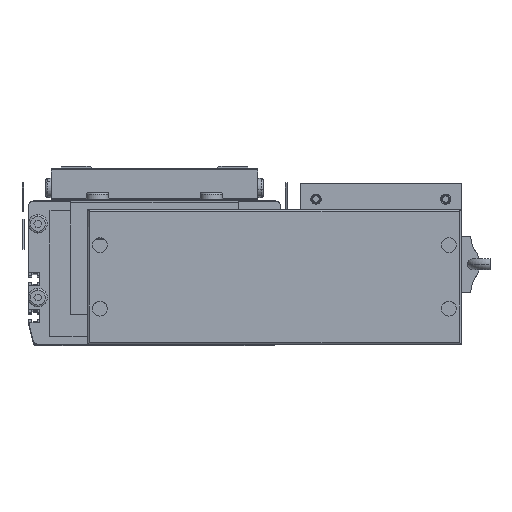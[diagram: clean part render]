
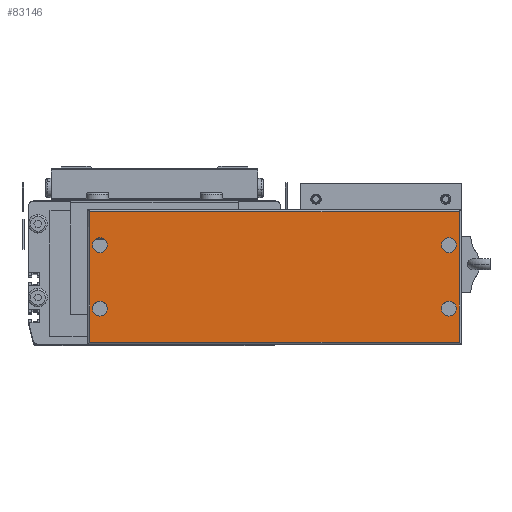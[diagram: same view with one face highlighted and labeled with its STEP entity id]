
A CAD part, top view. The second image highlights one B-rep face of the part: STEP entity #83146.
In plain terms, the highlighted planar face has unit normal (0, 0, 1).
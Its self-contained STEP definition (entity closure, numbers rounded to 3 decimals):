
#32617 = CIRCLE ( 'NONE', #32640, 4. ) ;
#32639 = CARTESIAN_POINT ( 'NONE',  ( -29.25, 53., 44. ) ) ;
#32640 = AXIS2_PLACEMENT_3D ( 'NONE', #32639, #32701, #32700 ) ;
#32700 = DIRECTION ( 'NONE',  ( 1., 0., 0. ) ) ;
#32701 = DIRECTION ( 'NONE',  ( 0., 0., 1. ) ) ;
#32872 = CARTESIAN_POINT ( 'NONE',  ( -25.25, 53., 44. ) ) ;
#32947 = CIRCLE ( 'NONE', #33009, 4. ) ;
#32955 = CARTESIAN_POINT ( 'NONE',  ( -25.25, 19., 44. ) ) ;
#33005 = CARTESIAN_POINT ( 'NONE',  ( 161.75, 19., 44. ) ) ;
#33007 = DIRECTION ( 'NONE',  ( 1., 0., 0. ) ) ;
#33008 = DIRECTION ( 'NONE',  ( 0., 0., 1. ) ) ;
#33009 = AXIS2_PLACEMENT_3D ( 'NONE', #33012, #33008, #33007 ) ;
#33012 = CARTESIAN_POINT ( 'NONE',  ( 157.75, 19., 44. ) ) ;
#33013 = CARTESIAN_POINT ( 'NONE',  ( 153.75, 19., 44. ) ) ;
#33020 = CARTESIAN_POINT ( 'NONE',  ( 161.75, 53., 44. ) ) ;
#33021 = CIRCLE ( 'NONE', #33114, 4. ) ;
#33024 = CARTESIAN_POINT ( 'NONE',  ( 153.75, 53., 44. ) ) ;
#33079 = CARTESIAN_POINT ( 'NONE',  ( -33.25, 19., 44. ) ) ;
#33104 = DIRECTION ( 'NONE',  ( 1., 0., 0. ) ) ;
#33105 = DIRECTION ( 'NONE',  ( 0., 0., 1. ) ) ;
#33114 = AXIS2_PLACEMENT_3D ( 'NONE', #33225, #33224, #33223 ) ;
#33131 = AXIS2_PLACEMENT_3D ( 'NONE', #33144, #33105, #33104 ) ;
#33144 = CARTESIAN_POINT ( 'NONE',  ( -29.25, 19., 44. ) ) ;
#33145 = CARTESIAN_POINT ( 'NONE',  ( -33.25, 53., 44. ) ) ;
#33155 = CIRCLE ( 'NONE', #33131, 4. ) ;
#33223 = DIRECTION ( 'NONE',  ( 1., 0., 0. ) ) ;
#33224 = DIRECTION ( 'NONE',  ( 0., 0., 1. ) ) ;
#33225 = CARTESIAN_POINT ( 'NONE',  ( 157.75, 53., 44. ) ) ;
#34486 = FACE_BOUND ( 'NONE', #83145, .T. ) ;
#34496 = CARTESIAN_POINT ( 'NONE',  ( -35.75, 0., 44. ) ) ;
#34498 = PLANE ( 'NONE',  #34638 ) ;
#34499 = FACE_OUTER_BOUND ( 'NONE', #83222, .T. ) ;
#34508 = FACE_BOUND ( 'NONE', #83217, .T. ) ;
#34527 = DIRECTION ( 'NONE',  ( 0., 1., 0. ) ) ;
#34528 = VECTOR ( 'NONE', #34527, 1000. ) ;
#34532 = LINE ( 'NONE', #34667, #34528 ) ;
#34550 = CARTESIAN_POINT ( 'NONE',  ( -34.75, 0., 44. ) ) ;
#34551 = LINE ( 'NONE', #34550, #34619 ) ;
#34558 = FACE_BOUND ( 'NONE', #83149, .T. ) ;
#34597 = CARTESIAN_POINT ( 'NONE',  ( 163.25, 71., 44. ) ) ;
#34601 = CARTESIAN_POINT ( 'NONE',  ( -34.75, 71., 44. ) ) ;
#34618 = DIRECTION ( 'NONE',  ( 0., -1., 0. ) ) ;
#34619 = VECTOR ( 'NONE', #34618, 1000. ) ;
#34623 = DIRECTION ( 'NONE',  ( 1., 0., 0. ) ) ;
#34624 = DIRECTION ( 'NONE',  ( 0., 0., 1. ) ) ;
#34625 = CARTESIAN_POINT ( 'NONE',  ( 157.75, 19., 44. ) ) ;
#34626 = AXIS2_PLACEMENT_3D ( 'NONE', #34625, #34624, #34623 ) ;
#34628 = DIRECTION ( 'NONE',  ( 1., 0., 0. ) ) ;
#34629 = DIRECTION ( 'NONE',  ( 0., 0., 1. ) ) ;
#34630 = CIRCLE ( 'NONE', #34626, 4. ) ;
#34637 = FACE_BOUND ( 'NONE', #83215, .T. ) ;
#34638 = AXIS2_PLACEMENT_3D ( 'NONE', #34496, #34629, #34628 ) ;
#34650 = DIRECTION ( 'NONE',  ( 0., 0., 1. ) ) ;
#34651 = CIRCLE ( 'NONE', #34670, 4. ) ;
#34667 = CARTESIAN_POINT ( 'NONE',  ( 163.25, 72., 44. ) ) ;
#34669 = DIRECTION ( 'NONE',  ( 1., 0., 0. ) ) ;
#34670 = AXIS2_PLACEMENT_3D ( 'NONE', #34673, #34650, #34669 ) ;
#34673 = CARTESIAN_POINT ( 'NONE',  ( -29.25, 53., 44. ) ) ;
#34694 = CARTESIAN_POINT ( 'NONE',  ( -34.75, 1., 44. ) ) ;
#34707 = CIRCLE ( 'NONE', #34891, 4. ) ;
#34724 = DIRECTION ( 'NONE',  ( 1., 0., 0. ) ) ;
#34725 = DIRECTION ( 'NONE',  ( 0., 0., 1. ) ) ;
#34760 = CIRCLE ( 'NONE', #34911, 4. ) ;
#34770 = LINE ( 'NONE', #34838, #34897 ) ;
#34772 = CARTESIAN_POINT ( 'NONE',  ( 163.25, 1., 44. ) ) ;
#34799 = DIRECTION ( 'NONE',  ( -1., 0., 0. ) ) ;
#34800 = VECTOR ( 'NONE', #34799, 1000. ) ;
#34801 = CARTESIAN_POINT ( 'NONE',  ( -35.75, 71., 44. ) ) ;
#34808 = DIRECTION ( 'NONE',  ( 1., 0., 0. ) ) ;
#34809 = DIRECTION ( 'NONE',  ( 0., 0., 1. ) ) ;
#34810 = CARTESIAN_POINT ( 'NONE',  ( -29.25, 19., 44. ) ) ;
#34812 = LINE ( 'NONE', #34801, #34800 ) ;
#34838 = CARTESIAN_POINT ( 'NONE',  ( 164.25, 1., 44. ) ) ;
#34888 = CARTESIAN_POINT ( 'NONE',  ( 157.75, 53., 44. ) ) ;
#34891 = AXIS2_PLACEMENT_3D ( 'NONE', #34810, #34809, #34808 ) ;
#34896 = DIRECTION ( 'NONE',  ( 1., 0., 0. ) ) ;
#34897 = VECTOR ( 'NONE', #34896, 1000. ) ;
#34911 = AXIS2_PLACEMENT_3D ( 'NONE', #34888, #34725, #34724 ) ;
#82154 = EDGE_CURVE ( 'NONE', #82289, #82239, #32617, .T. ) ;
#82207 = EDGE_CURVE ( 'NONE', #82212, #82209, #32947, .T. ) ;
#82209 = VERTEX_POINT ( 'NONE', #33005 ) ;
#82212 = VERTEX_POINT ( 'NONE', #33013 ) ;
#82239 = VERTEX_POINT ( 'NONE', #32872 ) ;
#82242 = VERTEX_POINT ( 'NONE', #32955 ) ;
#82257 = VERTEX_POINT ( 'NONE', #33079 ) ;
#82286 = EDGE_CURVE ( 'NONE', #82257, #82242, #33155, .T. ) ;
#82289 = VERTEX_POINT ( 'NONE', #33145 ) ;
#82313 = VERTEX_POINT ( 'NONE', #33020 ) ;
#82314 = EDGE_CURVE ( 'NONE', #82315, #82313, #33021, .T. ) ;
#82315 = VERTEX_POINT ( 'NONE', #33024 ) ;
#83017 = ORIENTED_EDGE ( 'NONE', *, *, #82154, .F. ) ;
#83018 = ORIENTED_EDGE ( 'NONE', *, *, #83223, .F. ) ;
#83058 = ORIENTED_EDGE ( 'NONE', *, *, #83069, .F. ) ;
#83061 = ORIENTED_EDGE ( 'NONE', *, *, #82207, .F. ) ;
#83062 = EDGE_CURVE ( 'NONE', #83173, #83095, #34551, .T. ) ;
#83069 = EDGE_CURVE ( 'NONE', #82239, #82289, #34651, .T. ) ;
#83094 = EDGE_CURVE ( 'NONE', #83202, #83174, #34532, .T. ) ;
#83095 = VERTEX_POINT ( 'NONE', #34694 ) ;
#83145 = EDGE_LOOP ( 'NONE', ( #83213, #83061 ) ) ;
#83146 = ADVANCED_FACE ( 'NONE', ( #34558, #34508, #34486, #34637, #34499 ), #34498, .T. ) ;
#83147 = EDGE_CURVE ( 'NONE', #82209, #82212, #34630, .T. ) ;
#83148 = ORIENTED_EDGE ( 'NONE', *, *, #83062, .T. ) ;
#83149 = EDGE_LOOP ( 'NONE', ( #83058, #83017 ) ) ;
#83150 = ORIENTED_EDGE ( 'NONE', *, *, #82314, .F. ) ;
#83170 = ORIENTED_EDGE ( 'NONE', *, *, #83225, .T. ) ;
#83173 = VERTEX_POINT ( 'NONE', #34601 ) ;
#83174 = VERTEX_POINT ( 'NONE', #34597 ) ;
#83201 = EDGE_CURVE ( 'NONE', #82313, #82315, #34760, .T. ) ;
#83202 = VERTEX_POINT ( 'NONE', #34772 ) ;
#83212 = ORIENTED_EDGE ( 'NONE', *, *, #83201, .F. ) ;
#83213 = ORIENTED_EDGE ( 'NONE', *, *, #83147, .F. ) ;
#83214 = ORIENTED_EDGE ( 'NONE', *, *, #83241, .T. ) ;
#83215 = EDGE_LOOP ( 'NONE', ( #83212, #83150 ) ) ;
#83216 = ORIENTED_EDGE ( 'NONE', *, *, #83094, .T. ) ;
#83217 = EDGE_LOOP ( 'NONE', ( #83018, #83242 ) ) ;
#83222 = EDGE_LOOP ( 'NONE', ( #83214, #83216, #83170, #83148 ) ) ;
#83223 = EDGE_CURVE ( 'NONE', #82242, #82257, #34707, .T. ) ;
#83225 = EDGE_CURVE ( 'NONE', #83174, #83173, #34812, .T. ) ;
#83241 = EDGE_CURVE ( 'NONE', #83095, #83202, #34770, .T. ) ;
#83242 = ORIENTED_EDGE ( 'NONE', *, *, #82286, .F. ) ;
